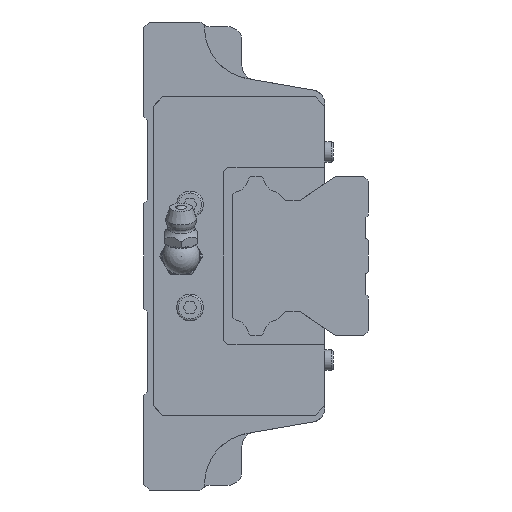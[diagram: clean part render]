
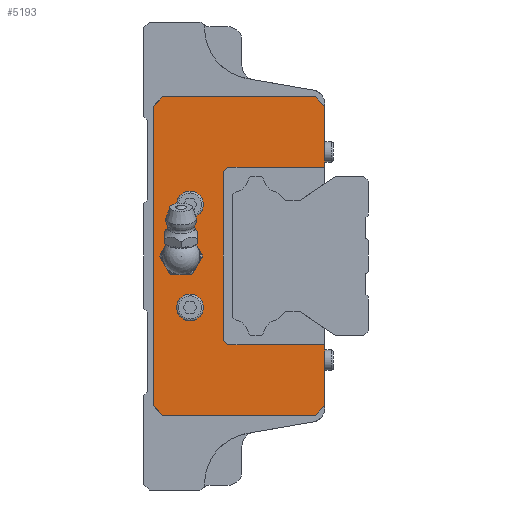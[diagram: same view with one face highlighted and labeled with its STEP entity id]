
A CAD part, left-side view. The second image highlights one B-rep face of the part: STEP entity #5193.
In plain terms, the highlighted planar face has unit normal (-1, 0, 0).
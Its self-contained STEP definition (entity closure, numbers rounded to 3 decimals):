
#235=CIRCLE('',#5631,3.);
#236=CIRCLE('',#5632,2.85);
#237=CIRCLE('',#5633,2.85);
#398=LINE('',#7607,#934);
#405=LINE('',#7621,#941);
#433=LINE('',#7679,#969);
#448=LINE('',#7710,#984);
#476=LINE('',#7763,#1012);
#502=LINE('',#7823,#1038);
#508=LINE('',#7840,#1044);
#651=LINE('',#8313,#1187);
#652=LINE('',#8315,#1188);
#660=LINE('',#8343,#1196);
#661=LINE('',#8346,#1197);
#662=LINE('',#8347,#1198);
#663=LINE('',#8349,#1199);
#664=LINE('',#8351,#1200);
#934=VECTOR('',#6156,1000.);
#941=VECTOR('',#6167,1000.);
#969=VECTOR('',#6207,1000.);
#984=VECTOR('',#6226,1000.);
#1012=VECTOR('',#6270,1000.);
#1038=VECTOR('',#6312,1000.);
#1044=VECTOR('',#6324,1000.);
#1187=VECTOR('',#6703,1000.);
#1188=VECTOR('',#6706,1000.);
#1196=VECTOR('',#6734,1000.);
#1197=VECTOR('',#6735,1000.);
#1198=VECTOR('',#6736,1000.);
#1199=VECTOR('',#6737,1000.);
#1200=VECTOR('',#6738,1000.);
#2274=ORIENTED_EDGE('',*,*,#3321,.T.);
#2275=ORIENTED_EDGE('',*,*,#3322,.F.);
#2276=ORIENTED_EDGE('',*,*,#3323,.F.);
#2277=ORIENTED_EDGE('',*,*,#3324,.T.);
#2278=ORIENTED_EDGE('',*,*,#3325,.T.);
#2279=ORIENTED_EDGE('',*,*,#3098,.F.);
#2280=ORIENTED_EDGE('',*,*,#3309,.T.);
#2281=ORIENTED_EDGE('',*,*,#2997,.F.);
#2282=ORIENTED_EDGE('',*,*,#2990,.F.);
#2283=ORIENTED_EDGE('',*,*,#3068,.F.);
#2284=ORIENTED_EDGE('',*,*,#3025,.F.);
#2285=ORIENTED_EDGE('',*,*,#3040,.F.);
#2286=ORIENTED_EDGE('',*,*,#3310,.T.);
#2287=ORIENTED_EDGE('',*,*,#3106,.F.);
#2288=ORIENTED_EDGE('',*,*,#3326,.T.);
#2289=ORIENTED_EDGE('',*,*,#3327,.T.);
#2290=ORIENTED_EDGE('',*,*,#3328,.T.);
#2990=EDGE_CURVE('',#3676,#3677,#398,.T.);
#2997=EDGE_CURVE('',#3677,#3682,#405,.T.);
#3025=EDGE_CURVE('',#3705,#3706,#433,.T.);
#3040=EDGE_CURVE('',#3719,#3705,#448,.T.);
#3068=EDGE_CURVE('',#3706,#3676,#476,.T.);
#3098=EDGE_CURVE('',#3762,#3763,#502,.T.);
#3106=EDGE_CURVE('',#3770,#3771,#508,.T.);
#3309=EDGE_CURVE('',#3762,#3682,#651,.T.);
#3310=EDGE_CURVE('',#3719,#3771,#652,.T.);
#3321=EDGE_CURVE('',#3910,#3910,#235,.T.);
#3322=EDGE_CURVE('',#3911,#3911,#236,.F.);
#3323=EDGE_CURVE('',#3912,#3912,#237,.F.);
#3324=EDGE_CURVE('',#3913,#3914,#660,.T.);
#3325=EDGE_CURVE('',#3914,#3763,#661,.T.);
#3326=EDGE_CURVE('',#3770,#3915,#662,.T.);
#3327=EDGE_CURVE('',#3915,#3916,#663,.T.);
#3328=EDGE_CURVE('',#3916,#3913,#664,.T.);
#3676=VERTEX_POINT('',#7606);
#3677=VERTEX_POINT('',#7608);
#3682=VERTEX_POINT('',#7622);
#3705=VERTEX_POINT('',#7678);
#3706=VERTEX_POINT('',#7680);
#3719=VERTEX_POINT('',#7709);
#3762=VERTEX_POINT('',#7822);
#3763=VERTEX_POINT('',#7824);
#3770=VERTEX_POINT('',#7839);
#3771=VERTEX_POINT('',#7841);
#3910=VERTEX_POINT('',#8338);
#3911=VERTEX_POINT('',#8340);
#3912=VERTEX_POINT('',#8342);
#3913=VERTEX_POINT('',#8344);
#3914=VERTEX_POINT('',#8345);
#3915=VERTEX_POINT('',#8348);
#3916=VERTEX_POINT('',#8350);
#4288=EDGE_LOOP('',(#2274));
#4289=EDGE_LOOP('',(#2275));
#4290=EDGE_LOOP('',(#2276));
#4291=EDGE_LOOP('',(#2277,#2278,#2279,#2280,#2281,#2282,#2283,#2284,#2285,
#2286,#2287,#2288,#2289,#2290));
#4651=FACE_BOUND('',#4288,.T.);
#4652=FACE_BOUND('',#4289,.T.);
#4653=FACE_BOUND('',#4290,.T.);
#4654=FACE_BOUND('',#4291,.T.);
#4945=PLANE('',#5630);
#5193=ADVANCED_FACE('',(#4651,#4652,#4653,#4654),#4945,.F.);
#5630=AXIS2_PLACEMENT_3D('',#8336,#6726,#6727);
#5631=AXIS2_PLACEMENT_3D('',#8337,#6728,#6729);
#5632=AXIS2_PLACEMENT_3D('',#8339,#6730,#6731);
#5633=AXIS2_PLACEMENT_3D('',#8341,#6732,#6733);
#6156=DIRECTION('',(0.,-0.707,0.707));
#6167=DIRECTION('',(0.,-1.,0.));
#6207=DIRECTION('',(0.,0.707,0.707));
#6226=DIRECTION('',(0.,1.,0.));
#6270=DIRECTION('',(0.,0.,1.));
#6312=DIRECTION('',(0.,0.,-1.));
#6324=DIRECTION('',(0.,0.,-1.));
#6703=DIRECTION('',(0.,0.707,0.707));
#6706=DIRECTION('',(0.,-0.707,0.707));
#6726=DIRECTION('',(1.,0.,0.));
#6727=DIRECTION('',(0.,0.,-1.));
#6728=DIRECTION('',(1.,0.,0.));
#6729=DIRECTION('',(0.,0.,-1.));
#6730=DIRECTION('',(1.,0.,0.));
#6731=DIRECTION('',(0.,0.,-1.));
#6732=DIRECTION('',(1.,0.,0.));
#6733=DIRECTION('',(0.,0.,-1.));
#6734=DIRECTION('',(0.,-0.707,0.707));
#6735=DIRECTION('',(0.,-1.,0.));
#6736=DIRECTION('',(0.,1.,0.));
#6737=DIRECTION('',(0.,0.707,0.707));
#6738=DIRECTION('',(0.,0.,1.));
#7606=CARTESIAN_POINT('',(-66.7,38.5,32.));
#7607=CARTESIAN_POINT('',(-66.7,38.5,32.));
#7608=CARTESIAN_POINT('',(-66.7,36.5,34.));
#7621=CARTESIAN_POINT('',(-66.7,40.5,34.));
#7622=CARTESIAN_POINT('',(-66.7,3.783,34.));
#7678=CARTESIAN_POINT('',(-66.7,36.5,-34.));
#7679=CARTESIAN_POINT('',(-66.7,36.5,-34.));
#7680=CARTESIAN_POINT('',(-66.7,38.5,-32.));
#7709=CARTESIAN_POINT('',(-66.7,3.783,-34.));
#7710=CARTESIAN_POINT('',(-66.7,0.,-34.));
#7763=CARTESIAN_POINT('',(-66.7,38.5,-32.));
#7822=CARTESIAN_POINT('',(-66.7,1.783,32.));
#7823=CARTESIAN_POINT('',(-66.7,1.783,32.478));
#7824=CARTESIAN_POINT('',(-66.7,1.783,19.));
#7839=CARTESIAN_POINT('',(-66.7,1.783,-19.));
#7840=CARTESIAN_POINT('',(-66.7,1.783,32.478));
#7841=CARTESIAN_POINT('',(-66.7,1.783,-32.));
#8313=CARTESIAN_POINT('',(-66.7,3.783,34.));
#8315=CARTESIAN_POINT('',(-66.7,1.783,-32.));
#8336=CARTESIAN_POINT('',(-66.7,0.,0.));
#8337=CARTESIAN_POINT('',(-66.7,32.5,0.));
#8338=CARTESIAN_POINT('',(-66.7,32.5,-3.));
#8339=CARTESIAN_POINT('',(-66.7,30.6,11.));
#8340=CARTESIAN_POINT('',(-66.7,30.6,8.15));
#8341=CARTESIAN_POINT('',(-66.7,30.6,-11.));
#8342=CARTESIAN_POINT('',(-66.7,30.6,-13.85));
#8343=CARTESIAN_POINT('',(-66.7,23.5,18.));
#8344=CARTESIAN_POINT('',(-66.7,23.5,18.));
#8345=CARTESIAN_POINT('',(-66.7,22.5,19.));
#8346=CARTESIAN_POINT('',(-66.7,22.5,19.));
#8347=CARTESIAN_POINT('',(-66.7,1.783,-19.));
#8348=CARTESIAN_POINT('',(-66.7,22.5,-19.));
#8349=CARTESIAN_POINT('',(-66.7,22.5,-19.));
#8350=CARTESIAN_POINT('',(-66.7,23.5,-18.));
#8351=CARTESIAN_POINT('',(-66.7,23.5,-18.));
